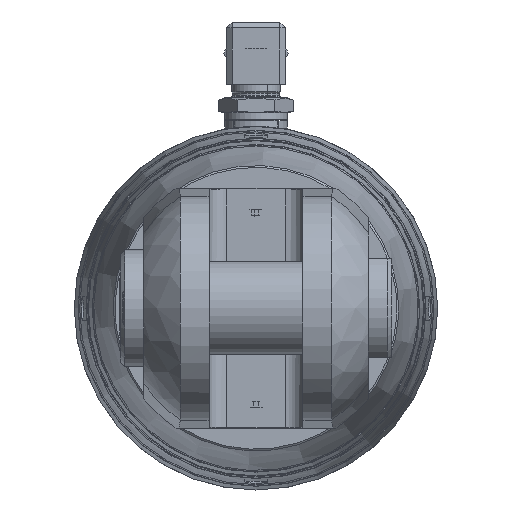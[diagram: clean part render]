
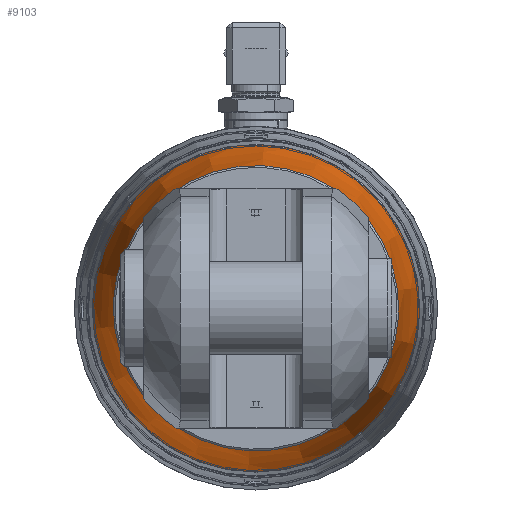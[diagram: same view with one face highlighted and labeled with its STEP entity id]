
A CAD part, left-side view. The second image highlights one B-rep face of the part: STEP entity #9103.
In plain terms, the highlighted conical face has half-angle 10 degrees and reference radius 52.073 mm.
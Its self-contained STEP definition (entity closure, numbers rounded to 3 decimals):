
#142=CONICAL_SURFACE('',#10056,52.073,0.175);
#991=LINE('',#16445,#1575);
#1575=VECTOR('',#12497,52.073);
#2194=FACE_OUTER_BOUND('',#2740,.T.);
#2740=EDGE_LOOP('',(#7780,#7781,#7782,#7783,#7784,#7785));
#3168=CIRCLE('',#10054,55.601);
#3169=CIRCLE('',#10055,55.601);
#3170=CIRCLE('',#10057,48.545);
#3171=CIRCLE('',#10058,48.545);
#3998=VERTEX_POINT('',#16435);
#3999=VERTEX_POINT('',#16436);
#4000=VERTEX_POINT('',#16441);
#4001=VERTEX_POINT('',#16442);
#5264=EDGE_CURVE('',#3998,#3999,#3168,.T.);
#5265=EDGE_CURVE('',#3999,#3998,#3169,.T.);
#5267=EDGE_CURVE('',#4000,#4001,#3170,.T.);
#5268=EDGE_CURVE('',#4001,#4000,#3171,.T.);
#5269=EDGE_CURVE('',#4001,#3999,#991,.T.);
#7780=ORIENTED_EDGE('',*,*,#5267,.F.);
#7781=ORIENTED_EDGE('',*,*,#5268,.F.);
#7782=ORIENTED_EDGE('',*,*,#5269,.T.);
#7783=ORIENTED_EDGE('',*,*,#5264,.F.);
#7784=ORIENTED_EDGE('',*,*,#5265,.F.);
#7785=ORIENTED_EDGE('',*,*,#5269,.F.);
#9103=ADVANCED_FACE('',(#2194),#142,.T.);
#10054=AXIS2_PLACEMENT_3D('',#16437,#12486,#12487);
#10055=AXIS2_PLACEMENT_3D('',#16438,#12488,#12489);
#10056=AXIS2_PLACEMENT_3D('',#16440,#12491,#12492);
#10057=AXIS2_PLACEMENT_3D('',#16443,#12493,#12494);
#10058=AXIS2_PLACEMENT_3D('',#16444,#12495,#12496);
#12486=DIRECTION('center_axis',(1.,0.,0.));
#12487=DIRECTION('ref_axis',(0.,0.605,0.796));
#12488=DIRECTION('center_axis',(1.,0.,0.));
#12489=DIRECTION('ref_axis',(0.,0.605,0.796));
#12491=DIRECTION('center_axis',(1.,0.,0.));
#12492=DIRECTION('ref_axis',(0.,-0.605,-0.796));
#12493=DIRECTION('center_axis',(-1.,0.,0.));
#12494=DIRECTION('ref_axis',(0.,0.605,0.796));
#12495=DIRECTION('center_axis',(-1.,0.,0.));
#12496=DIRECTION('ref_axis',(0.,0.605,0.796));
#12497=DIRECTION('',(0.985,0.105,0.138));
#16435=CARTESIAN_POINT('',(-1408.142,-33.658,-44.256));
#16436=CARTESIAN_POINT('',(-1408.142,33.658,44.256));
#16437=CARTESIAN_POINT('Origin',(-1408.142,0.,
0.));
#16438=CARTESIAN_POINT('Origin',(-1408.142,0.,
0.));
#16440=CARTESIAN_POINT('Origin',(-1428.15,0.,0.));
#16441=CARTESIAN_POINT('',(-1448.158,-29.387,-38.64));
#16442=CARTESIAN_POINT('',(-1448.158,29.387,38.64));
#16443=CARTESIAN_POINT('Origin',(-1448.158,0.,
0.));
#16444=CARTESIAN_POINT('Origin',(-1448.158,0.,
0.));
#16445=CARTESIAN_POINT('',(-1428.15,31.522,41.448));
